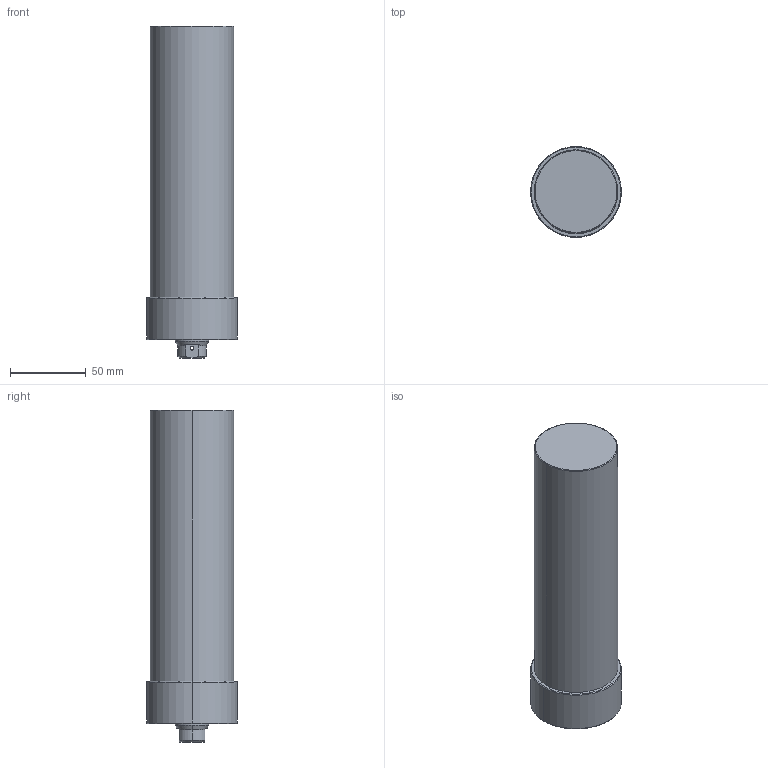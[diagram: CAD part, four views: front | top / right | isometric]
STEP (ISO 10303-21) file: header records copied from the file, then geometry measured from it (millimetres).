
FILE_DESCRIPTION (( 'STEP AP203' ), '1' );
FILE_NAME ('CLLU-055GB-150.STEP', '2020-01-06T07:27:03', ( '' ), ( '' ), 'SwSTEP 2.0', 'SolidWorks 2015', '' );
FILE_SCHEMA (( 'CONFIG_CONTROL_DESIGN' ));
Length unit declared in the file: millimetre
Products named in the file (1): CLLU-055GB-150
Bounding box: 60 x 60 x 219 mm (x, y, z)
Volume: 504732.3 mm3; surface area: 44300.1 mm2
Topology: 1 solids, 1 shells, 68 faces, 155 edges, 88 vertices
Faces by surface type: cylinder 27, cone 25, plane 10, torus 6
Entity records: 2021 total; most frequent: CARTESIAN_POINT 422, DIRECTION 350, ORIENTED_EDGE 290, AXIS2_PLACEMENT_3D 148, EDGE_CURVE 145, VERTEX_POINT 88, EDGE_LOOP 81, CIRCLE 79
